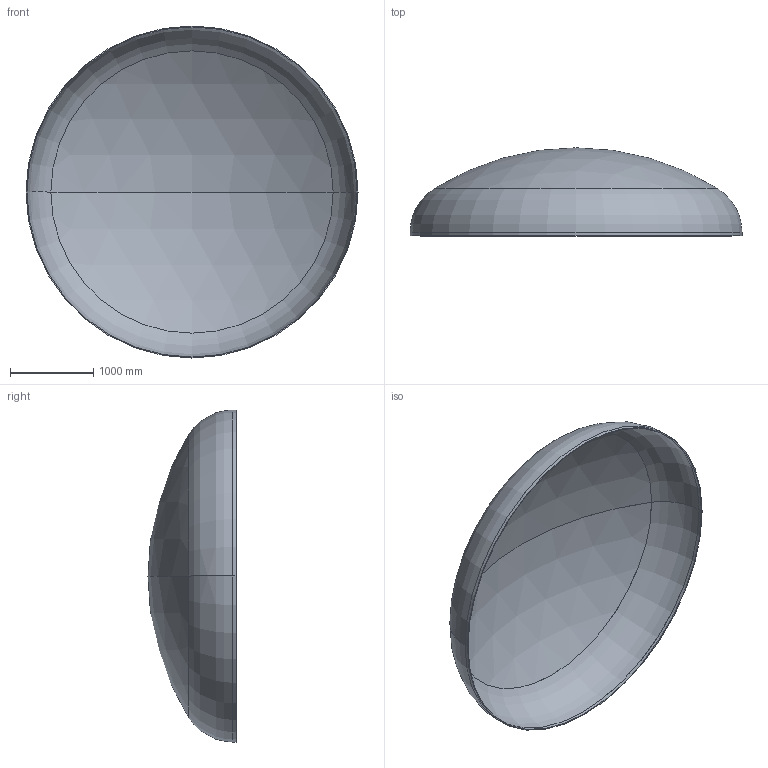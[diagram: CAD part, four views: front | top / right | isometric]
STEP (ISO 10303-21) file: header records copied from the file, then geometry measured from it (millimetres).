
FILE_DESCRIPTION (( 'STEP AP203' ), '1' );
FILE_NAME ('DIN 28013 Korbbogenform_-_Boden DIN 28013 - 4000 x 40 - I - s=11.step', '2016-07-01T22:01:12', ( '' ), ( '' ), 'SwSTEP 2.0', 'SolidWorks 2013', '' );
FILE_SCHEMA (( 'CONFIG_CONTROL_DESIGN' ));
Length unit declared in the file: millimetre
Products named in the file (1): DIN 28013 Korbbogenform_-_Boden DIN 28013 - 4000 x 40 - I - s=11
Bounding box: 4000 x 1061.4 x 4000 mm (x, y, z)
Volume: 196220084 mm3; surface area: 35814467.7 mm2
Topology: 1 solids, 1 shells, 13 faces, 24 edges, 14 vertices
Faces by surface type: torus 4, cylinder 4, sphere 4, plane 1
Entity records: 407 total; most frequent: DIRECTION 72, CARTESIAN_POINT 52, ORIENTED_EDGE 48, AXIS2_PLACEMENT_3D 34, EDGE_CURVE 24, CIRCLE 20, VERTEX_POINT 14, EDGE_LOOP 14
